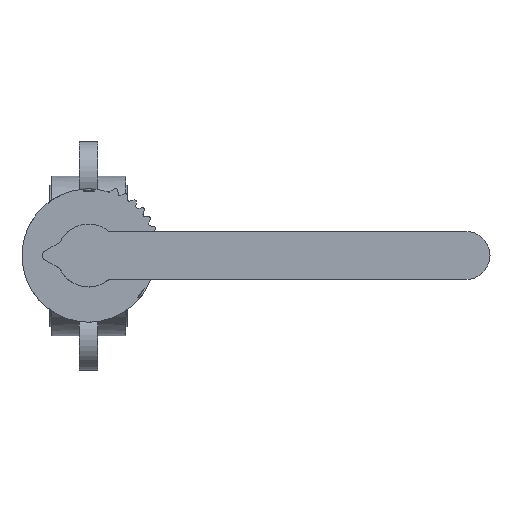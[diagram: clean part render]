
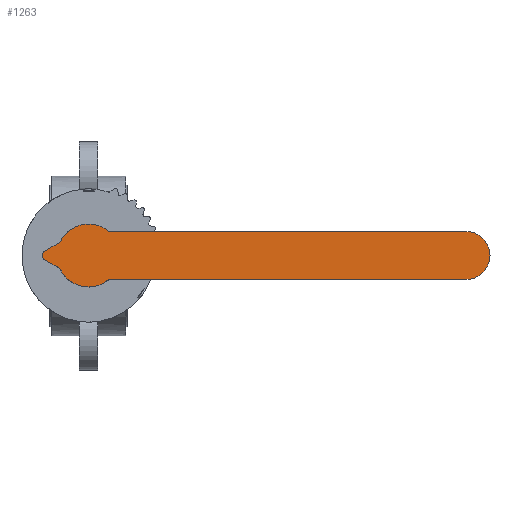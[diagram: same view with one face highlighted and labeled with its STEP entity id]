
A CAD part, top view. The second image highlights one B-rep face of the part: STEP entity #1263.
In plain terms, the highlighted planar face has unit normal (0, 0, 1).
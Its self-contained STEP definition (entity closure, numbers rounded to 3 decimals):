
#1263=ADVANCED_FACE('',(#2756),#2758,.T.);
#2756=FACE_BOUND('',#2757,.T.);
#2757=EDGE_LOOP('',(#3829,#3830,#3831,#3832,#3833,#3834,#3835,#3836,#3837,#3838,
#3839));
#2758=PLANE('',#2759);
#2759=AXIS2_PLACEMENT_3D('',#2760,#2761,#2762);
#2760=CARTESIAN_POINT('',(-1.545,-4.755,167.));
#2761=DIRECTION('',(0.,0.,1.));
#2762=DIRECTION('',(0.951,-0.309,0.));
#3829=ORIENTED_EDGE('',*,*,#4457,.T.);
#3830=ORIENTED_EDGE('',*,*,#4436,.T.);
#3831=ORIENTED_EDGE('',*,*,#4435,.T.);
#3832=ORIENTED_EDGE('',*,*,#4458,.T.);
#3833=ORIENTED_EDGE('',*,*,#4459,.T.);
#3834=ORIENTED_EDGE('',*,*,#4460,.T.);
#3835=ORIENTED_EDGE('',*,*,#4461,.T.);
#3836=ORIENTED_EDGE('',*,*,#4462,.T.);
#3837=ORIENTED_EDGE('',*,*,#4431,.T.);
#3838=ORIENTED_EDGE('',*,*,#4443,.T.);
#3839=ORIENTED_EDGE('',*,*,#4463,.T.);
#4431=EDGE_CURVE('',#5147,#5145,#5148,.T.);
#4435=EDGE_CURVE('',#5155,#5153,#5156,.T.);
#4436=EDGE_CURVE('',#5157,#5155,#5158,.T.);
#4443=EDGE_CURVE('',#5145,#5169,#5170,.T.);
#4457=EDGE_CURVE('',#5196,#5157,#5197,.T.);
#4458=EDGE_CURVE('',#5153,#5198,#5199,.T.);
#4459=EDGE_CURVE('',#5198,#5200,#5201,.T.);
#4460=EDGE_CURVE('',#5200,#5202,#5203,.T.);
#4461=EDGE_CURVE('',#5202,#5204,#5205,.T.);
#4462=EDGE_CURVE('',#5204,#5147,#5206,.T.);
#4463=EDGE_CURVE('',#5169,#5196,#5207,.T.);
#5145=VERTEX_POINT('',#7685);
#5147=VERTEX_POINT('',#7689);
#5148=CIRCLE('',#7690,17.);
#5153=VERTEX_POINT('',#7703);
#5155=VERTEX_POINT('',#7707);
#5156=CIRCLE('',#7708,17.);
#5157=VERTEX_POINT('',#7712);
#5158=CIRCLE('',#7713,17.);
#5169=VERTEX_POINT('',#7742);
#5170=LINE('',#7743,#7744);
#5196=VERTEX_POINT('',#7797);
#5197=LINE('',#7798,#7799);
#5198=VERTEX_POINT('',#7801);
#5199=CIRCLE('',#7802,3.);
#5200=VERTEX_POINT('',#7806);
#5201=LINE('',#7807,#7808);
#5202=VERTEX_POINT('',#7810);
#5203=CIRCLE('',#7811,3.);
#5204=VERTEX_POINT('',#7815);
#5205=LINE('',#7816,#7817);
#5206=CIRCLE('',#7819,3.);
#5207=CIRCLE('',#7823,13.);
#7685=CARTESIAN_POINT('',(10.954,-13.,167.));
#7689=CARTESIAN_POINT('',(-15.113,-7.785,167.));
#7690=AXIS2_PLACEMENT_3D('',#7691,#7692,#7693);
#7691=CARTESIAN_POINT('',(0.,0.,167.));
#7692=DIRECTION('',(0.,0.,1.));
#7693=DIRECTION('',(-0.889,-0.458,0.));
#7703=CARTESIAN_POINT('',(-15.113,7.785,167.));
#7707=CARTESIAN_POINT('',(2.659,16.791,167.));
#7708=AXIS2_PLACEMENT_3D('',#7709,#7710,#7711);
#7709=CARTESIAN_POINT('',(0.,0.,167.));
#7710=DIRECTION('',(0.,0.,1.));
#7711=DIRECTION('',(0.156,0.988,0.));
#7712=CARTESIAN_POINT('',(10.954,13.,167.));
#7713=AXIS2_PLACEMENT_3D('',#7714,#7715,#7716);
#7714=CARTESIAN_POINT('',(0.,0.,167.));
#7715=DIRECTION('',(0.,0.,1.));
#7716=DIRECTION('',(0.644,0.765,0.));
#7742=CARTESIAN_POINT('',(204.,-13.,167.));
#7743=CARTESIAN_POINT('',(10.954,-13.,167.));
#7744=VECTOR('',#7745,1.);
#7745=DIRECTION('',(1.,0.,0.));
#7797=CARTESIAN_POINT('',(204.,13.,167.));
#7798=CARTESIAN_POINT('',(204.,13.,167.));
#7799=VECTOR('',#7800,1.);
#7800=DIRECTION('',(-1.,0.,0.));
#7801=CARTESIAN_POINT('',(-16.317,6.539,167.));
#7802=AXIS2_PLACEMENT_3D('',#7803,#7804,#7805);
#7803=CARTESIAN_POINT('',(-17.78,9.159,167.));
#7804=DIRECTION('',(0.,0.,-1.));
#7805=DIRECTION('',(0.889,-0.458,0.));
#7806=CARTESIAN_POINT('',(-23.338,2.619,167.));
#7807=CARTESIAN_POINT('',(-16.317,6.539,167.));
#7808=VECTOR('',#7809,1.);
#7809=DIRECTION('',(-0.873,-0.487,0.));
#7810=CARTESIAN_POINT('',(-23.338,-2.619,167.));
#7811=AXIS2_PLACEMENT_3D('',#7812,#7813,#7814);
#7812=CARTESIAN_POINT('',(-21.876,0.,167.));
#7813=DIRECTION('',(0.,0.,1.));
#7814=DIRECTION('',(-0.487,0.873,0.));
#7815=CARTESIAN_POINT('',(-16.317,-6.539,167.));
#7816=CARTESIAN_POINT('',(-23.338,-2.619,167.));
#7817=VECTOR('',#7818,1.);
#7818=DIRECTION('',(0.873,-0.487,0.));
#7819=AXIS2_PLACEMENT_3D('',#7820,#7821,#7822);
#7820=CARTESIAN_POINT('',(-17.78,-9.159,167.));
#7821=DIRECTION('',(0.,0.,-1.));
#7822=DIRECTION('',(0.487,0.873,0.));
#7823=AXIS2_PLACEMENT_3D('',#7824,#7825,#7826);
#7824=CARTESIAN_POINT('',(204.,0.,167.));
#7825=DIRECTION('',(0.,0.,1.));
#7826=DIRECTION('',(0.,-1.,0.));
